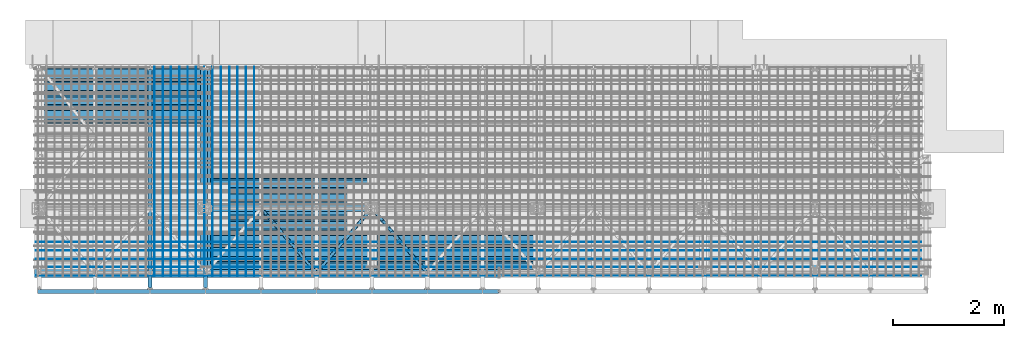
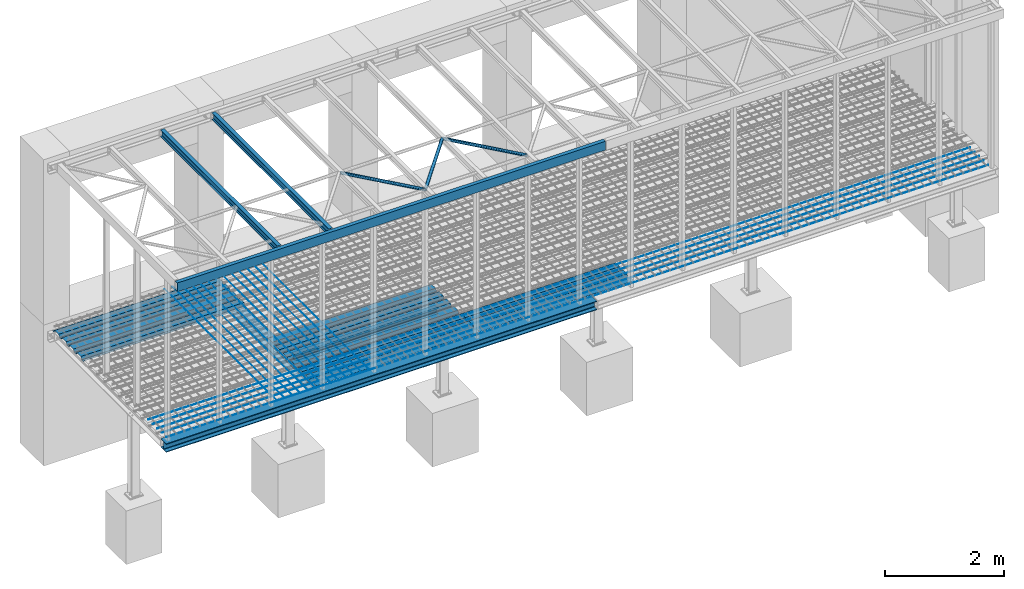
# One storey, part 4 of 26: 31 beams, 31 elements without a shape of their own.
"""IFC2X3 building model written with IfcOpenShell, lengths in millimetres."""

from ifc_helpers import new_model, si_unit, frame, origin_with_axes, origin_2d_with_axis, place, context, subcontext, project, spatial, polyline, circle, hollow_circle, i_section, u_section, outline, extrude, boolean, clip, halfspace, material, type_object, element, aggregate, save


model = new_model("IFC2X3")

# Units and contexts
model_context = context("Model", 3, precision=1e-05, world=origin_with_axes())
body_context = subcontext(model_context, "Body", "Model", "MODEL_VIEW")
ifc_project = project(units=[si_unit("LENGTHUNIT", "METRE", prefix="MILLI"), si_unit("AREAUNIT", "SQUARE_METRE"), si_unit("VOLUMEUNIT", "CUBIC_METRE"), si_unit("MASSUNIT", "GRAM", prefix="KILO"), si_unit("TIMEUNIT", "SECOND"), si_unit("PLANEANGLEUNIT", "RADIAN"), si_unit("SOLIDANGLEUNIT", "STERADIAN"), si_unit("THERMODYNAMICTEMPERATUREUNIT", "DEGREE_CELSIUS"), si_unit("LUMINOUSINTENSITYUNIT", "LUMEN")], contexts=[model_context])

# Site, building, storey
site_placement = place(None, origin_with_axes())
site = spatial("IfcSite", under=ifc_project, at=site_placement, Name="Undefined", CompositionType="ELEMENT")
building_placement = place(site_placement, origin_with_axes())
building = spatial("IfcBuilding", under=site, at=building_placement, Name="Undefined", CompositionType="ELEMENT")
storey_placement = place(building_placement, origin_with_axes())
storey = spatial("IfcBuildingStorey", under=building, at=storey_placement, Name="Undefined", CompositionType="ELEMENT", Elevation=0.0)

# Assembly, beam
assembly_1_placement = place(storey_placement, origin_with_axes())
assembly_1 = element("IfcElementAssembly", 1, at=assembly_1_placement, inside=storey, Name="Steel Assembly", AssemblyPlace="NOTDEFINED", PredefinedType="RIGID_FRAME")
ifc_material = material(Name="STEEL/S235JR")
beam_type_1 = type_object("IfcBeamType", Name="D8", PredefinedType="NOTDEFINED")
beam_1_placement = place(assembly_1_placement, frame((3927.5, 3814.99758213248, -49.0), z_axis=(0.0, 0.0, 1.0), x_axis=(0.0, -1.0, 0.0)))
beam_1 = element("IfcBeam", 2, at=beam_1_placement, type_object=beam_type_1, material=ifc_material, Name="VÝSTUZ PLECHODOSKA", ObjectType="D8", context=body_context, shape_type="SweptSolid", body=[
    extrude(circle(Radius=4.0, at=origin_2d_with_axis()), frame((3779.99758213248, 0.0, 0.0), z_axis=(-1.0, 0.0, 0.0), x_axis=(0.0, -1.0, 0.0)), (0.0, 0.0, 1.0), 3780.0),
])
aggregate(assembly_1, [beam_1])

assembly_2_placement = place(storey_placement, origin_with_axes())
assembly_2 = element("IfcElementAssembly", 3, at=assembly_2_placement, inside=storey, Name="Steel Assembly", AssemblyPlace="NOTDEFINED", PredefinedType="RIGID_FRAME")
beam_2_placement = place(assembly_2_placement, frame((3777.5, 3814.99758213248, -49.0), z_axis=(0.0, 0.0, 1.0), x_axis=(0.0, -1.0, 0.0)))
beam_2 = element("IfcBeam", 4, at=beam_2_placement, type_object=beam_type_1, material=ifc_material, Name="VÝSTUZ PLECHODOSKA", ObjectType="D8", context=body_context, shape_type="SweptSolid", body=[
    extrude(circle(Radius=4.0, at=origin_2d_with_axis()), frame((3779.99758213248, 0.0, 0.0), z_axis=(-1.0, 0.0, 0.0), x_axis=(0.0, -1.0, 0.0)), (0.0, 0.0, 1.0), 3780.0),
])
aggregate(assembly_2, [beam_2])

assembly_3_placement = place(storey_placement, origin_with_axes())
assembly_3 = element("IfcElementAssembly", 5, at=assembly_3_placement, inside=storey, Name="Steel Assembly", AssemblyPlace="NOTDEFINED", PredefinedType="RIGID_FRAME")
beam_3_placement = place(assembly_3_placement, frame((3627.5, 3814.99758213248, -49.0), z_axis=(0.0, 0.0, 1.0), x_axis=(0.0, -1.0, 0.0)))
beam_3 = element("IfcBeam", 6, at=beam_3_placement, type_object=beam_type_1, material=ifc_material, Name="VÝSTUZ PLECHODOSKA", ObjectType="D8", context=body_context, shape_type="SweptSolid", body=[
    extrude(circle(Radius=4.0, at=origin_2d_with_axis()), frame((3779.99758213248, 0.0, 0.0), z_axis=(-1.0, 0.0, 0.0), x_axis=(0.0, -1.0, 0.0)), (0.0, 0.0, 1.0), 3780.0),
])
aggregate(assembly_3, [beam_3])

assembly_4_placement = place(storey_placement, origin_with_axes())
assembly_4 = element("IfcElementAssembly", 7, at=assembly_4_placement, inside=storey, Name="Steel Assembly", AssemblyPlace="NOTDEFINED", PredefinedType="RIGID_FRAME")
beam_4_placement = place(assembly_4_placement, frame((3477.5, 3814.99758213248, -49.0), z_axis=(0.0, 0.0, 1.0), x_axis=(0.0, -1.0, 0.0)))
beam_4 = element("IfcBeam", 8, at=beam_4_placement, type_object=beam_type_1, material=ifc_material, Name="VÝSTUZ PLECHODOSKA", ObjectType="D8", context=body_context, shape_type="SweptSolid", body=[
    extrude(circle(Radius=4.0, at=origin_2d_with_axis()), frame((3779.99758213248, 0.0, 0.0), z_axis=(-1.0, 0.0, 0.0), x_axis=(0.0, -1.0, 0.0)), (0.0, 0.0, 1.0), 3780.0),
])
aggregate(assembly_4, [beam_4])

assembly_5_placement = place(storey_placement, origin_with_axes())
assembly_5 = element("IfcElementAssembly", 9, at=assembly_5_placement, inside=storey, Name="Steel Assembly", AssemblyPlace="NOTDEFINED", PredefinedType="RIGID_FRAME")
beam_5_placement = place(assembly_5_placement, frame((3327.5, 3814.99758213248, -49.0), z_axis=(0.0, 0.0, 1.0), x_axis=(0.0, -1.0, 0.0)))
beam_5 = element("IfcBeam", 10, at=beam_5_placement, type_object=beam_type_1, material=ifc_material, Name="VÝSTUZ PLECHODOSKA", ObjectType="D8", context=body_context, shape_type="SweptSolid", body=[
    extrude(circle(Radius=4.0, at=origin_2d_with_axis()), frame((3779.99758213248, 0.0, 0.0), z_axis=(-1.0, 0.0, 0.0), x_axis=(0.0, -1.0, 0.0)), (0.0, 0.0, 1.0), 3780.0),
])
aggregate(assembly_5, [beam_5])

assembly_6_placement = place(storey_placement, origin_with_axes())
assembly_6 = element("IfcElementAssembly", 11, at=assembly_6_placement, inside=storey, Name="Steel Assembly", AssemblyPlace="NOTDEFINED", PredefinedType="RIGID_FRAME")
beam_6_placement = place(assembly_6_placement, frame((3177.5, 3814.99758213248, -49.0), z_axis=(0.0, 0.0, 1.0), x_axis=(0.0, -1.0, 0.0)))
beam_6 = element("IfcBeam", 12, at=beam_6_placement, type_object=beam_type_1, material=ifc_material, Name="VÝSTUZ PLECHODOSKA", ObjectType="D8", context=body_context, shape_type="SweptSolid", body=[
    extrude(circle(Radius=4.0, at=origin_2d_with_axis()), frame((3779.99758213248, 0.0, 0.0), z_axis=(-1.0, 0.0, 0.0), x_axis=(0.0, -1.0, 0.0)), (0.0, 0.0, 1.0), 3780.0),
])
aggregate(assembly_6, [beam_6])

assembly_7_placement = place(storey_placement, origin_with_axes())
assembly_7 = element("IfcElementAssembly", 13, at=assembly_7_placement, inside=storey, Name="Steel Assembly", AssemblyPlace="NOTDEFINED", PredefinedType="RIGID_FRAME")
beam_7_placement = place(assembly_7_placement, frame((3027.5, 3814.99758213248, -49.0), z_axis=(0.0, 0.0, 1.0), x_axis=(0.0, -1.0, 0.0)))
beam_7 = element("IfcBeam", 14, at=beam_7_placement, type_object=beam_type_1, material=ifc_material, Name="VÝSTUZ PLECHODOSKA", ObjectType="D8", context=body_context, shape_type="SweptSolid", body=[
    extrude(circle(Radius=4.0, at=origin_2d_with_axis()), frame((3779.99758213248, 0.0, 0.0), z_axis=(-1.0, 0.0, 0.0), x_axis=(0.0, -1.0, 0.0)), (0.0, 0.0, 1.0), 3780.0),
])
aggregate(assembly_7, [beam_7])

assembly_8_placement = place(storey_placement, origin_with_axes())
assembly_8 = element("IfcElementAssembly", 15, at=assembly_8_placement, inside=storey, Name="Steel Assembly", AssemblyPlace="NOTDEFINED", PredefinedType="RIGID_FRAME")
beam_8_placement = place(assembly_8_placement, frame((2877.5, 3814.99758213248, -49.0), z_axis=(0.0, 0.0, 1.0), x_axis=(0.0, -1.0, 0.0)))
beam_8 = element("IfcBeam", 16, at=beam_8_placement, type_object=beam_type_1, material=ifc_material, Name="VÝSTUZ PLECHODOSKA", ObjectType="D8", context=body_context, shape_type="SweptSolid", body=[
    extrude(circle(Radius=4.0, at=origin_2d_with_axis()), frame((3779.99758213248, 0.0, 0.0), z_axis=(-1.0, 0.0, 0.0), x_axis=(0.0, -1.0, 0.0)), (0.0, 0.0, 1.0), 3780.0),
])
aggregate(assembly_8, [beam_8])

assembly_9_placement = place(storey_placement, origin_with_axes())
assembly_9 = element("IfcElementAssembly", 17, at=assembly_9_placement, inside=storey, Name="Steel Assembly", AssemblyPlace="NOTDEFINED", PredefinedType="RIGID_FRAME")
beam_9_placement = place(assembly_9_placement, frame((2727.5, 3814.99758213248, -49.0), z_axis=(0.0, 0.0, 1.0), x_axis=(0.0, -1.0, 0.0)))
beam_9 = element("IfcBeam", 18, at=beam_9_placement, type_object=beam_type_1, material=ifc_material, Name="VÝSTUZ PLECHODOSKA", ObjectType="D8", context=body_context, shape_type="SweptSolid", body=[
    extrude(circle(Radius=4.0, at=origin_2d_with_axis()), frame((3779.99758213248, 0.0, 0.0), z_axis=(-1.0, 0.0, 0.0), x_axis=(0.0, -1.0, 0.0)), (0.0, 0.0, 1.0), 3780.0),
])
aggregate(assembly_9, [beam_9])

assembly_10_placement = place(storey_placement, origin_with_axes())
assembly_10 = element("IfcElementAssembly", 19, at=assembly_10_placement, inside=storey, Name="Steel Assembly", AssemblyPlace="NOTDEFINED", PredefinedType="RIGID_FRAME")
beam_10_placement = place(assembly_10_placement, frame((2577.5, 3814.99758213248, -49.0), z_axis=(0.0, 0.0, 1.0), x_axis=(0.0, -1.0, 0.0)))
beam_10 = element("IfcBeam", 20, at=beam_10_placement, type_object=beam_type_1, material=ifc_material, Name="VÝSTUZ PLECHODOSKA", ObjectType="D8", context=body_context, shape_type="SweptSolid", body=[
    extrude(circle(Radius=4.0, at=origin_2d_with_axis()), frame((3779.99758213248, 0.0, 0.0), z_axis=(-1.0, 0.0, 0.0), x_axis=(0.0, -1.0, 0.0)), (0.0, 0.0, 1.0), 3780.0),
])
aggregate(assembly_10, [beam_10])

assembly_11_placement = place(storey_placement, origin_with_axes())
assembly_11 = element("IfcElementAssembly", 21, at=assembly_11_placement, inside=storey, Name="Steel Assembly", AssemblyPlace="NOTDEFINED", PredefinedType="RIGID_FRAME")
beam_11_placement = place(assembly_11_placement, frame((2427.5, 3814.99758213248, -49.0), z_axis=(0.0, 0.0, 1.0), x_axis=(0.0, -1.0, 0.0)))
beam_11 = element("IfcBeam", 22, at=beam_11_placement, type_object=beam_type_1, material=ifc_material, Name="VÝSTUZ PLECHODOSKA", ObjectType="D8", context=body_context, shape_type="SweptSolid", body=[
    extrude(circle(Radius=4.0, at=origin_2d_with_axis()), frame((3779.99758213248, 0.0, 0.0), z_axis=(-1.0, 0.0, 0.0), x_axis=(0.0, -1.0, 0.0)), (0.0, 0.0, 1.0), 3780.0),
])
aggregate(assembly_11, [beam_11])

assembly_12_placement = place(storey_placement, origin_with_axes())
assembly_12 = element("IfcElementAssembly", 23, at=assembly_12_placement, inside=storey, Name="Steel Assembly", AssemblyPlace="NOTDEFINED", PredefinedType="RIGID_FRAME")
beam_12_placement = place(assembly_12_placement, frame((2277.5, 3814.99758213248, -49.0), z_axis=(0.0, 0.0, 1.0), x_axis=(0.0, -1.0, 0.0)))
beam_12 = element("IfcBeam", 24, at=beam_12_placement, type_object=beam_type_1, material=ifc_material, Name="VÝSTUZ PLECHODOSKA", ObjectType="D8", context=body_context, shape_type="SweptSolid", body=[
    extrude(circle(Radius=4.0, at=origin_2d_with_axis()), frame((3779.99758213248, 0.0, 0.0), z_axis=(-1.0, 0.0, 0.0), x_axis=(0.0, -1.0, 0.0)), (0.0, 0.0, 1.0), 3780.0),
])
aggregate(assembly_12, [beam_12])

assembly_13_placement = place(storey_placement, origin_with_axes())
assembly_13 = element("IfcElementAssembly", 25, at=assembly_13_placement, inside=storey, Name="Steel Assembly", AssemblyPlace="NOTDEFINED", PredefinedType="RIGID_FRAME")
beam_13_placement = place(assembly_13_placement, frame((2127.5, 3814.99758213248, -49.0), z_axis=(0.0, 0.0, 1.0), x_axis=(0.0, -1.0, 0.0)))
beam_13 = element("IfcBeam", 26, at=beam_13_placement, type_object=beam_type_1, material=ifc_material, Name="VÝSTUZ PLECHODOSKA", ObjectType="D8", context=body_context, shape_type="SweptSolid", body=[
    extrude(circle(Radius=4.0, at=origin_2d_with_axis()), frame((3779.99758213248, 0.0, 0.0), z_axis=(-1.0, 0.0, 0.0), x_axis=(0.0, -1.0, 0.0)), (0.0, 0.0, 1.0), 3780.0),
])
aggregate(assembly_13, [beam_13])

assembly_14_placement = place(storey_placement, origin_with_axes())
assembly_14 = element("IfcElementAssembly", 27, at=assembly_14_placement, inside=storey, Name="Steel Assembly", AssemblyPlace="NOTDEFINED", PredefinedType="RIGID_FRAME")
beam_14_placement = place(assembly_14_placement, frame((-15.0, 49.9975821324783, -57.0), z_axis=(0.0, 0.0, 1.0), x_axis=(1.0, 0.0, 0.0)))
beam_14 = element("IfcBeam", 28, at=beam_14_placement, type_object=beam_type_1, material=ifc_material, Name="VÝSTUZ PLECHODOSKA", ObjectType="D8", context=body_context, shape_type="SweptSolid", body=[
    extrude(circle(Radius=4.0, at=origin_2d_with_axis()), frame((15985.0, 0.0, 0.0), z_axis=(-1.0, 0.0, 0.0), x_axis=(0.0, -1.0, 0.0)), (0.0, 0.0, 1.0), 15985.0),
])
aggregate(assembly_14, [beam_14])

assembly_15_placement = place(storey_placement, origin_with_axes())
assembly_15 = element("IfcElementAssembly", 29, at=assembly_15_placement, inside=storey, Name="Steel Assembly", AssemblyPlace="NOTDEFINED", PredefinedType="RIGID_FRAME")
beam_15_placement = place(assembly_15_placement, frame((-15.0, 199.997582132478, -57.0), z_axis=(0.0, 0.0, 1.0), x_axis=(1.0, 0.0, 0.0)))
beam_15 = element("IfcBeam", 30, at=beam_15_placement, type_object=beam_type_1, material=ifc_material, Name="VÝSTUZ PLECHODOSKA", ObjectType="D8", context=body_context, shape_type="SweptSolid", body=[
    extrude(circle(Radius=4.0, at=origin_2d_with_axis()), frame((15985.0, 0.0, 0.0), z_axis=(-1.0, 0.0, 0.0), x_axis=(0.0, -1.0, 0.0)), (0.0, 0.0, 1.0), 15985.0),
])
aggregate(assembly_15, [beam_15])

assembly_16_placement = place(storey_placement, origin_with_axes())
assembly_16 = element("IfcElementAssembly", 31, at=assembly_16_placement, inside=storey, Name="Steel Assembly", AssemblyPlace="NOTDEFINED", PredefinedType="RIGID_FRAME")
beam_16_placement = place(assembly_16_placement, frame((-15.0, 349.997582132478, -57.0), z_axis=(0.0, 0.0, 1.0), x_axis=(1.0, 0.0, 0.0)))
beam_16 = element("IfcBeam", 32, at=beam_16_placement, type_object=beam_type_1, material=ifc_material, Name="VÝSTUZ PLECHODOSKA", ObjectType="D8", context=body_context, shape_type="SweptSolid", body=[
    extrude(circle(Radius=4.0, at=origin_2d_with_axis()), frame((15985.0, 0.0, 0.0), z_axis=(-1.0, 0.0, 0.0), x_axis=(0.0, -1.0, 0.0)), (0.0, 0.0, 1.0), 15985.0),
])
aggregate(assembly_16, [beam_16])

assembly_17_placement = place(storey_placement, origin_with_axes())
assembly_17 = element("IfcElementAssembly", 33, at=assembly_17_placement, inside=storey, Name="Steel Assembly", AssemblyPlace="NOTDEFINED", PredefinedType="RIGID_FRAME")
beam_17_placement = place(assembly_17_placement, frame((-15.0, 499.997582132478, -57.0), z_axis=(0.0, 0.0, 1.0), x_axis=(1.0, 0.0, 0.0)))
beam_17 = element("IfcBeam", 34, at=beam_17_placement, type_object=beam_type_1, material=ifc_material, Name="VÝSTUZ PLECHODOSKA", ObjectType="D8", context=body_context, shape_type="SweptSolid", body=[
    extrude(circle(Radius=4.0, at=origin_2d_with_axis()), frame((15985.0, 0.0, 0.0), z_axis=(-1.0, 0.0, 0.0), x_axis=(0.0, -1.0, 0.0)), (0.0, 0.0, 1.0), 15985.0),
])
aggregate(assembly_17, [beam_17])

assembly_18_placement = place(storey_placement, origin_with_axes())
assembly_18 = element("IfcElementAssembly", 35, at=assembly_18_placement, inside=storey, Name="Steel Assembly", AssemblyPlace="NOTDEFINED", PredefinedType="RIGID_FRAME")
beam_18_placement = place(assembly_18_placement, frame((-15.0, 649.997582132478, -57.0), z_axis=(0.0, 0.0, 1.0), x_axis=(1.0, 0.0, 0.0)))
beam_18 = element("IfcBeam", 36, at=beam_18_placement, type_object=beam_type_1, material=ifc_material, Name="VÝSTUZ PLECHODOSKA", ObjectType="D8", context=body_context, shape_type="SweptSolid", body=[
    extrude(circle(Radius=4.0, at=origin_2d_with_axis()), frame((15985.0, 0.0, 0.0), z_axis=(-1.0, 0.0, 0.0), x_axis=(0.0, -1.0, 0.0)), (0.0, 0.0, 1.0), 15985.0),
])
aggregate(assembly_18, [beam_18])

assembly_19_placement = place(storey_placement, origin_with_axes())
assembly_19 = element("IfcElementAssembly", 37, at=assembly_19_placement, inside=storey, Name="Steel Assembly", AssemblyPlace="NOTDEFINED", PredefinedType="RIGID_FRAME")
beam_type_2 = type_object("IfcBeamType", Name="TR50/250", PredefinedType="NOTDEFINED")
beam_19_placement = place(assembly_19_placement, frame((5960.0, 315.047569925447, -135.38), z_axis=(0.0, 0.0, 1.0), x_axis=(1.0, 0.0, 0.0)))
beam_19 = element("IfcBeam", 38, at=beam_19_placement, type_object=beam_type_2, material=ifc_material, Name="Trapézový plech", ObjectType="TR50/250", context=body_context, shape_type="Clipping", body=[
    clip(extrude(outline(polyline([(-487.739990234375, -24.6299991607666), (-524.950012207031, -24.6200008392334), (-524.950012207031, -23.8700008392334), (-488.149993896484, -23.8700008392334), (-457.649993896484, 24.6299991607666), (-322.239990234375, 24.6299991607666), (-291.739990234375, -23.8700008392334), (-238.149993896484, -23.8700008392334), (-207.649993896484, 24.6299991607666), (-72.2399978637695, 24.6299991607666), (-41.7400016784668, -23.8700008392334), (11.8500003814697, -23.8700008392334), (42.3499984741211, 24.6299991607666), (177.759994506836, 24.6299991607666), (208.259994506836, -23.8700008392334), (261.850006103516, -23.8700008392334), (292.350006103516, 24.6299991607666), (427.760009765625, 24.6299991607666), (458.260009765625, -23.8700008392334), (511.850006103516, -23.8700008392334), (524.309997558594, -4.05000019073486), (524.950012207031, -4.44999980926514), (512.260009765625, -24.6200008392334), (457.850006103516, -24.6200008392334), (427.350006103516, 23.8799991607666), (292.760009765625, 23.8799991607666), (262.260009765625, -24.6200008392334), (207.850006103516, -24.6200008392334), (177.350006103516, 23.8799991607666), (42.7599983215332, 23.8799991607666), (12.2600002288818, -24.6200008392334), (-42.1500015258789, -24.6200008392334), (-72.6500015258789, 23.8799991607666), (-207.240005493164, 23.8799991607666), (-237.740005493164, -24.6200008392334), (-292.149993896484, -24.6200008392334), (-322.649993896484, 23.8799991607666), (-457.239990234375, 23.8799991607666), (-487.739990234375, -24.6299991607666)])), frame((3180.0, 0.0, 0.0), z_axis=(-1.0, 0.0, 0.0), x_axis=(0.0, -1.0, 0.0)), (0.0, 0.0, 1.0), 3180.0), halfspace(frame((365.0, -155.047569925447, -55.0), z_axis=(0.0, -1.0, 0.0), x_axis=(0.0, 0.0, 1.0)), False)),
])
aggregate(assembly_19, [beam_19])

assembly_20_placement = place(storey_placement, origin_with_axes())
assembly_20 = element("IfcElementAssembly", 39, at=assembly_20_placement, inside=storey, Name="Steel Assembly", AssemblyPlace="NOTDEFINED", PredefinedType="RIGID_FRAME")
beam_20_placement = place(assembly_20_placement, frame((2960.0, 315.047569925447, -135.38), z_axis=(0.0, 0.0, 1.0), x_axis=(1.0, 0.0, 0.0)))
beam_20 = element("IfcBeam", 40, at=beam_20_placement, type_object=beam_type_2, material=ifc_material, Name="Trapézový plech", ObjectType="TR50/250", context=body_context, shape_type="Clipping", body=[
    clip(extrude(outline(polyline([(-487.739990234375, -24.6299991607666), (-524.950012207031, -24.6200008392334), (-524.950012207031, -23.8700008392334), (-488.149993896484, -23.8700008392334), (-457.649993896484, 24.6299991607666), (-322.239990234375, 24.6299991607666), (-291.739990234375, -23.8700008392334), (-238.149993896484, -23.8700008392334), (-207.649993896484, 24.6299991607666), (-72.2399978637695, 24.6299991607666), (-41.7400016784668, -23.8700008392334), (11.8500003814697, -23.8700008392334), (42.3499984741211, 24.6299991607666), (177.759994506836, 24.6299991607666), (208.259994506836, -23.8700008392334), (261.850006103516, -23.8700008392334), (292.350006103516, 24.6299991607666), (427.760009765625, 24.6299991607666), (458.260009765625, -23.8700008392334), (511.850006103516, -23.8700008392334), (524.309997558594, -4.05000019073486), (524.950012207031, -4.44999980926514), (512.260009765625, -24.6200008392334), (457.850006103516, -24.6200008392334), (427.350006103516, 23.8799991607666), (292.760009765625, 23.8799991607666), (262.260009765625, -24.6200008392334), (207.850006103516, -24.6200008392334), (177.350006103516, 23.8799991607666), (42.7599983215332, 23.8799991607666), (12.2600002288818, -24.6200008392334), (-42.1500015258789, -24.6200008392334), (-72.6500015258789, 23.8799991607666), (-207.240005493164, 23.8799991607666), (-237.740005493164, -24.6200008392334), (-292.149993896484, -24.6200008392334), (-322.649993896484, 23.8799991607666), (-457.239990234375, 23.8799991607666), (-487.739990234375, -24.6299991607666)])), frame((3180.0, 0.0, 0.0), z_axis=(-1.0, 0.0, 0.0), x_axis=(0.0, -1.0, 0.0)), (0.0, 0.0, 1.0), 3180.0), halfspace(frame((365.0, -155.047569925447, -55.0), z_axis=(0.0, -1.0, 0.0), x_axis=(0.0, 0.0, 1.0)), False)),
])
aggregate(assembly_20, [beam_20])

assembly_21_placement = place(storey_placement, origin_with_axes())
assembly_21 = element("IfcElementAssembly", 41, at=assembly_21_placement, inside=storey, Name="Steel Assembly", AssemblyPlace="NOTDEFINED", PredefinedType="RIGID_FRAME")
beam_21_placement = place(assembly_21_placement, frame((2960.0, 1315.04756992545, -135.38), z_axis=(0.0, 0.0, 1.0), x_axis=(1.0, 0.0, 0.0)))
beam_21 = element("IfcBeam", 42, at=beam_21_placement, type_object=beam_type_2, material=ifc_material, Name="Trapézový plech", ObjectType="TR50/250", context=body_context, shape_type="SweptSolid", body=[
    extrude(outline(polyline([(-487.739990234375, -24.6299991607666), (-524.950012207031, -24.6200008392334), (-524.950012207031, -23.8700008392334), (-488.149993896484, -23.8700008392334), (-457.649993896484, 24.6299991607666), (-322.239990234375, 24.6299991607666), (-291.739990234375, -23.8700008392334), (-238.149993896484, -23.8700008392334), (-207.649993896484, 24.6299991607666), (-72.2399978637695, 24.6299991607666), (-41.7400016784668, -23.8700008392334), (11.8500003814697, -23.8700008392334), (42.3499984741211, 24.6299991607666), (177.759994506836, 24.6299991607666), (208.259994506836, -23.8700008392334), (261.850006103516, -23.8700008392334), (292.350006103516, 24.6299991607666), (427.760009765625, 24.6299991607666), (458.260009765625, -23.8700008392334), (511.850006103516, -23.8700008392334), (524.309997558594, -4.05000019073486), (524.950012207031, -4.44999980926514), (512.260009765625, -24.6200008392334), (457.850006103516, -24.6200008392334), (427.350006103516, 23.8799991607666), (292.760009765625, 23.8799991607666), (262.260009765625, -24.6200008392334), (207.850006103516, -24.6200008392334), (177.350006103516, 23.8799991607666), (42.7599983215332, 23.8799991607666), (12.2600002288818, -24.6200008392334), (-42.1500015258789, -24.6200008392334), (-72.6500015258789, 23.8799991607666), (-207.240005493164, 23.8799991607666), (-237.740005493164, -24.6200008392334), (-292.149993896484, -24.6200008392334), (-322.649993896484, 23.8799991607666), (-457.239990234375, 23.8799991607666), (-487.739990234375, -24.6299991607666)])), frame((3180.0, 0.0, 0.0), z_axis=(-1.0, 0.0, 0.0), x_axis=(0.0, -1.0, 0.0)), (0.0, 0.0, 1.0), 3180.0),
])
aggregate(assembly_21, [beam_21])

assembly_22_placement = place(storey_placement, origin_with_axes())
assembly_22 = element("IfcElementAssembly", 43, at=assembly_22_placement, inside=storey, Name="Steel Assembly", AssemblyPlace="NOTDEFINED", PredefinedType="RIGID_FRAME")
beam_22_placement = place(assembly_22_placement, frame((-40.0000000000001, 3315.04756992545, -135.38), z_axis=(0.0, 0.0, 1.0), x_axis=(1.0, 0.0, 0.0)))
beam_22 = element("IfcBeam", 44, at=beam_22_placement, type_object=beam_type_2, material=ifc_material, Name="Trapézový plech", ObjectType="TR50/250", context=body_context, shape_type="SweptSolid", body=[
    extrude(outline(polyline([(-487.739990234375, -24.6299991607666), (-524.950012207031, -24.6200008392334), (-524.950012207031, -23.8700008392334), (-488.149993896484, -23.8700008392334), (-457.649993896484, 24.6299991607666), (-322.239990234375, 24.6299991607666), (-291.739990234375, -23.8700008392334), (-238.149993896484, -23.8700008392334), (-207.649993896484, 24.6299991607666), (-72.2399978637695, 24.6299991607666), (-41.7400016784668, -23.8700008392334), (11.8500003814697, -23.8700008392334), (42.3499984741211, 24.6299991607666), (177.759994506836, 24.6299991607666), (208.259994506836, -23.8700008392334), (261.850006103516, -23.8700008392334), (292.350006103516, 24.6299991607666), (427.760009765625, 24.6299991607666), (458.260009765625, -23.8700008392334), (511.850006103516, -23.8700008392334), (524.309997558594, -4.05000019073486), (524.950012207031, -4.44999980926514), (512.260009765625, -24.6200008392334), (457.850006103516, -24.6200008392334), (427.350006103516, 23.8799991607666), (292.760009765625, 23.8799991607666), (262.260009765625, -24.6200008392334), (207.850006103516, -24.6200008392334), (177.350006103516, 23.8799991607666), (42.7599983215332, 23.8799991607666), (12.2600002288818, -24.6200008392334), (-42.1500015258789, -24.6200008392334), (-72.6500015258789, 23.8799991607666), (-207.240005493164, 23.8799991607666), (-237.740005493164, -24.6200008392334), (-292.149993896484, -24.6200008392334), (-322.649993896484, 23.8799991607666), (-457.239990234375, 23.8799991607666), (-487.739990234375, -24.6299991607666)])), frame((3180.0, 0.0, 0.0), z_axis=(-1.0, 0.0, 0.0), x_axis=(0.0, -1.0, 0.0)), (0.0, 0.0, 1.0), 3180.0),
])
aggregate(assembly_22, [beam_22])

assembly_23_placement = place(storey_placement, origin_with_axes())
assembly_23 = element("IfcElementAssembly", 45, at=assembly_23_placement, inside=storey, Name="Steel Assembly", AssemblyPlace="NOTDEFINED", PredefinedType="RIGID_FRAME")
beam_type_3 = type_object("IfcBeamType", Name="HEB180", PredefinedType="NOTDEFINED")
beam_23_placement = place(assembly_23_placement, frame((3050.0, 3767.0, -250.0), z_axis=(0.0, 0.0, 1.0), x_axis=(0.0, -1.0, 0.0)))
beam_23 = element("IfcBeam", 46, at=beam_23_placement, type_object=beam_type_3, material=ifc_material, Name="NOSNÍK", ObjectType="HEB180", context=body_context, shape_type="SweptSolid", body=[
    extrude(i_section(OverallWidth=180.0, OverallDepth=180.0, WebThickness=8.5, FlangeThickness=14.0, FilletRadius=15.0, at=origin_2d_with_axis()), frame((3557.0, 0.0, 0.0), z_axis=(-1.0, 0.0, 0.0), x_axis=(0.0, -1.0, 0.0)), (0.0, 0.0, 1.0), 3557.0),
])
aggregate(assembly_23, [beam_23])

assembly_24_placement = place(storey_placement, origin_with_axes())
assembly_24 = element("IfcElementAssembly", 47, at=assembly_24_placement, inside=storey, Name="Steel Assembly", AssemblyPlace="NOTDEFINED", PredefinedType="RIGID_FRAME")
beam_24_placement = place(assembly_24_placement, frame((-40.0, 100.0, -250.0), z_axis=(0.0, 0.0, -1.0), x_axis=(1.0, 0.0, 0.0)))
beam_24 = element("IfcBeam", 48, at=beam_24_placement, type_object=beam_type_3, material=ifc_material, Name="NOSNÍK", ObjectType="HEB180", context=body_context, shape_type="SweptSolid", body=[
    extrude(i_section(OverallWidth=180.0, OverallDepth=180.0, WebThickness=8.5, FlangeThickness=14.0, FilletRadius=15.0, at=origin_2d_with_axis()), frame((8380.0, 0.0, 0.0), z_axis=(-1.0, 0.0, 0.0), x_axis=(0.0, -1.0, 0.0)), (0.0, 0.0, 1.0), 8380.0),
])
aggregate(assembly_24, [beam_24])

assembly_25_placement = place(storey_placement, origin_with_axes())
assembly_25 = element("IfcElementAssembly", 49, at=assembly_25_placement, inside=storey, Name="Steel Assembly", AssemblyPlace="NOTDEFINED", PredefinedType="RIGID_FRAME")
beam_type_4 = type_object("IfcBeamType", Name="UPE180", PredefinedType="NOTDEFINED")
beam_25_placement = place(assembly_25_placement, frame((8340.0, -237.5, 3210.0), z_axis=(0.0, 0.0, 1.0), x_axis=(-1.0, 0.0, 0.0)))
beam_25 = element("IfcBeam", 50, at=beam_25_placement, type_object=beam_type_4, material=ifc_material, Name="NOSNÍK", ObjectType="UPE180", context=body_context, shape_type="SweptSolid", body=[
    extrude(u_section(Depth=180.0, FlangeWidth=75.0, WebThickness=5.5, FlangeThickness=10.5, FilletRadius=12.0, at=origin_2d_with_axis()), frame((8330.0, 0.0, 0.0), z_axis=(-1.0, 0.0, 0.0), x_axis=(0.0, -1.0, 0.0)), (0.0, 0.0, 1.0), 8330.0),
])
aggregate(assembly_25, [beam_25])

assembly_26_placement = place(storey_placement, origin_with_axes())
assembly_26 = element("IfcElementAssembly", 51, at=assembly_26_placement, inside=storey, Name="Steel Assembly", AssemblyPlace="NOTDEFINED", PredefinedType="RIGID_FRAME")
beam_type_5 = type_object("IfcBeamType", Name="HEA120", PredefinedType="NOTDEFINED")
beam_26_placement = place(assembly_26_placement, frame((3160.0, 1260.0, -250.0), z_axis=(0.0, 0.0, -1.0), x_axis=(1.0, 0.0, 0.0)))
beam_26 = element("IfcBeam", 52, at=beam_26_placement, type_object=beam_type_5, material=ifc_material, Name="NOSNÍK", ObjectType="HEA120", context=body_context, shape_type="SweptSolid", body=[
    extrude(i_section(OverallWidth=120.0, OverallDepth=114.0, WebThickness=5.0, FlangeThickness=8.0, FilletRadius=12.0, at=origin_2d_with_axis()), frame((2780.0, 0.0, 0.0), z_axis=(-1.0, 0.0, 0.0), x_axis=(0.0, -1.0, 0.0)), (0.0, 0.0, 1.0), 2780.0),
])
aggregate(assembly_26, [beam_26])

assembly_27_placement = place(storey_placement, origin_with_axes())
assembly_27 = element("IfcElementAssembly", 53, at=assembly_27_placement, inside=storey, Name="Steel Assembly", AssemblyPlace="NOTDEFINED", PredefinedType="RIGID_FRAME")
beam_type_6 = type_object("IfcBeamType", Name="CHS60.3*5", PredefinedType="NOTDEFINED")
beam_27_placement = place(assembly_27_placement, frame((6049.99999972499, 1260.00000021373, 3230.0), z_axis=(0.0, 0.0, -1.0), x_axis=(0.652939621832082, -0.757409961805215, 0.0)))
beam_27 = element("IfcBeam", 54, at=beam_27_placement, type_object=beam_type_6, material=ifc_material, Name="NOSNÍK", ObjectType="CHS60.3*5", context=body_context, shape_type="CSG", body=[
    boolean("DIFFERENCE", boolean("DIFFERENCE", boolean("DIFFERENCE", boolean("DIFFERENCE", extrude(hollow_circle(Radius=30.15, WallThickness=5.0, at=origin_2d_with_axis()), frame((1531.53517752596, -1.81898940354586e-12, 0.0), z_axis=(-1.0, 0.0, 0.0), x_axis=(0.0, -1.0, 0.0)), (0.0, 0.0, 1.0), 1531.5), extrude(hollow_circle(Radius=30.15, WallThickness=5.0, at=origin_2d_with_axis()), frame((651.405214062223, -755.630048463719, 0.0), z_axis=(-0.652939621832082, 0.757409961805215, 0.0), x_axis=(-0.757409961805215, -0.652939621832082, 0.0)), (0.0, 0.0, 1.0), 995.3)), extrude(hollow_circle(Radius=30.15, WallThickness=5.0, at=origin_2d_with_axis()), frame((1530.00076975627, 1.77991286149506, 9.09494701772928e-13), z_axis=(-0.652939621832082, 0.757409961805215, 0.0), x_axis=(-0.757409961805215, -0.652939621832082, 0.0)), (0.0, 0.0, 1.0), 995.3)), halfspace(frame((38.5731081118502, 30.1499999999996, -30.1499999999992), z_axis=(-0.652939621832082, 0.757409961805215, 0.0), x_axis=(0.0, 0.0, 1.0)), False)), halfspace(frame((1562.91007051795, 30.1499999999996, 30.150000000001), z_axis=(0.652939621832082, -0.757409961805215, 0.0), x_axis=(0.0, 0.0, -1.0)), False)),
])
aggregate(assembly_27, [beam_27])

assembly_28_placement = place(storey_placement, origin_with_axes())
assembly_28 = element("IfcElementAssembly", 55, at=assembly_28_placement, inside=storey, Name="Steel Assembly", AssemblyPlace="NOTDEFINED", PredefinedType="RIGID_FRAME")
beam_28_placement = place(assembly_28_placement, frame((5050.0, 100.0, 3230.0), z_axis=(0.0, 0.0, -1.0), x_axis=(0.652939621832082, 0.757409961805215, 0.0)))
beam_28 = element("IfcBeam", 56, at=beam_28_placement, type_object=beam_type_6, material=ifc_material, Name="NOSNÍK", ObjectType="CHS60.3*5", context=body_context, shape_type="CSG", body=[
    boolean("DIFFERENCE", boolean("DIFFERENCE", boolean("DIFFERENCE", boolean("DIFFERENCE", extrude(hollow_circle(Radius=30.15, WallThickness=5.0, at=origin_2d_with_axis()), frame((1531.53517752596, -1.81898940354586e-12, 0.0), z_axis=(-1.0, 0.0, 0.0), x_axis=(0.0, -1.0, 0.0)), (0.0, 0.0, 1.0), 1531.5), extrude(hollow_circle(Radius=30.15, WallThickness=5.0, at=origin_2d_with_axis()), frame((1530.00076941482, -1.77991293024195, 0.0), z_axis=(-0.652939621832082, -0.757409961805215, 0.0), x_axis=(0.757409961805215, -0.652939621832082, 0.0)), (0.0, 0.0, 1.0), 995.3)), extrude(hollow_circle(Radius=30.15, WallThickness=5.0, at=origin_2d_with_axis()), frame((651.405213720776, 755.630048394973, 0.0), z_axis=(-0.652939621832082, -0.757409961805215, 0.0), x_axis=(0.757409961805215, -0.652939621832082, 0.0)), (0.0, 0.0, 1.0), 995.3)), halfspace(frame((1562.9100704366, -30.1499999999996, -30.1500000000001), z_axis=(0.652939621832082, 0.757409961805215, 0.0), x_axis=(0.0, 0.0, 1.0)), False)), halfspace(frame((-31.3748924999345, 30.1499999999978, -30.1500000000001), z_axis=(-0.652939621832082, -0.757409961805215, 0.0), x_axis=(0.0, 0.0, 1.0)), False)),
])
aggregate(assembly_28, [beam_28])

assembly_29_placement = place(storey_placement, origin_with_axes())
assembly_29 = element("IfcElementAssembly", 57, at=assembly_29_placement, inside=storey, Name="Steel Assembly", AssemblyPlace="NOTDEFINED", PredefinedType="RIGID_FRAME")
beam_29_placement = place(assembly_29_placement, frame((4049.99999972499, 1260.00000021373, 3230.0), z_axis=(0.0, 0.0, -1.0), x_axis=(0.652939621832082, -0.757409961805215, 0.0)))
beam_29 = element("IfcBeam", 58, at=beam_29_placement, type_object=beam_type_6, material=ifc_material, Name="NOSNÍK", ObjectType="CHS60.3*5", context=body_context, shape_type="CSG", body=[
    boolean("DIFFERENCE", boolean("DIFFERENCE", boolean("DIFFERENCE", boolean("DIFFERENCE", extrude(hollow_circle(Radius=30.15, WallThickness=5.0, at=origin_2d_with_axis()), frame((1531.53517752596, -1.81898940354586e-12, 0.0), z_axis=(-1.0, 0.0, 0.0), x_axis=(0.0, -1.0, 0.0)), (0.0, 0.0, 1.0), 1531.5), extrude(hollow_circle(Radius=30.15, WallThickness=5.0, at=origin_2d_with_axis()), frame((651.405214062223, -755.630048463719, 0.0), z_axis=(-0.652939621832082, 0.757409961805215, 0.0), x_axis=(-0.757409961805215, -0.652939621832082, 0.0)), (0.0, 0.0, 1.0), 995.3)), extrude(hollow_circle(Radius=30.15, WallThickness=5.0, at=origin_2d_with_axis()), frame((1530.00076975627, 1.77991286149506, 9.09494701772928e-13), z_axis=(-0.652939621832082, 0.757409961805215, 0.0), x_axis=(-0.757409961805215, -0.652939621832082, 0.0)), (0.0, 0.0, 1.0), 995.3)), halfspace(frame((38.5731081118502, 30.1499999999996, -30.1499999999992), z_axis=(-0.652939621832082, 0.757409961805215, 0.0), x_axis=(0.0, 0.0, 1.0)), False)), halfspace(frame((1562.91007051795, 30.1499999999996, 30.150000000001), z_axis=(0.652939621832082, -0.757409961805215, 0.0), x_axis=(0.0, 0.0, -1.0)), False)),
])
aggregate(assembly_29, [beam_29])

assembly_30_placement = place(storey_placement, origin_with_axes())
assembly_30 = element("IfcElementAssembly", 59, at=assembly_30_placement, inside=storey, Name="Steel Assembly", AssemblyPlace="NOTDEFINED", PredefinedType="RIGID_FRAME")
beam_type_7 = type_object("IfcBeamType", Name="IPE140", PredefinedType="NOTDEFINED")
beam_30_placement = place(assembly_30_placement, frame((2050.0, -180.0, 3230.0), z_axis=(0.0, 0.0, 1.0), x_axis=(0.0, 1.0, 0.0)))
beam_30 = element("IfcBeam", 60, at=beam_30_placement, type_object=beam_type_7, material=ifc_material, Name="NOSNÍK", ObjectType="IPE140", context=body_context, shape_type="SweptSolid", body=[
    extrude(i_section(OverallWidth=73.0, OverallDepth=140.0, WebThickness=4.699999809, FlangeThickness=6.900000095, FilletRadius=7.0, at=origin_2d_with_axis()), frame((3947.0, 0.0, 0.0), z_axis=(-1.0, 0.0, 0.0), x_axis=(0.0, -1.0, 0.0)), (0.0, 0.0, 1.0), 3947.0),
])
aggregate(assembly_30, [beam_30])

assembly_31_placement = place(storey_placement, origin_with_axes())
assembly_31 = element("IfcElementAssembly", 61, at=assembly_31_placement, inside=storey, Name="Steel Assembly", AssemblyPlace="NOTDEFINED", PredefinedType="RIGID_FRAME")
beam_31_placement = place(assembly_31_placement, frame((3050.0, -180.0, 3230.0), z_axis=(0.0, 0.0, 1.0), x_axis=(0.0, 1.0, 0.0)))
beam_31 = element("IfcBeam", 62, at=beam_31_placement, type_object=beam_type_7, material=ifc_material, Name="NOSNÍK", ObjectType="IPE140", context=body_context, shape_type="SweptSolid", body=[
    extrude(i_section(OverallWidth=73.0, OverallDepth=140.0, WebThickness=4.699999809, FlangeThickness=6.900000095, FilletRadius=7.0, at=origin_2d_with_axis()), frame((3947.0, 0.0, 0.0), z_axis=(-1.0, 0.0, 0.0), x_axis=(0.0, -1.0, 0.0)), (0.0, 0.0, 1.0), 3947.0),
])
aggregate(assembly_31, [beam_31])

save(model, "model.ifc")
